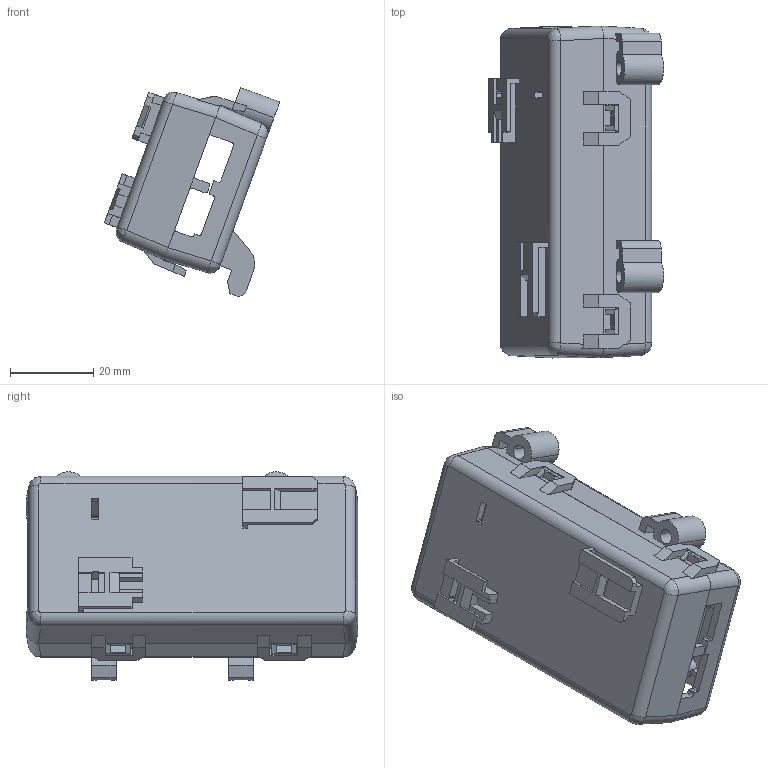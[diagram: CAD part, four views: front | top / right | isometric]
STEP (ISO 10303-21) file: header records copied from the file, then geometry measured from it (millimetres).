
FILE_DESCRIPTION(('CATIA V5 STEP Exchange'),'2;1');
FILE_NAME('C:\Users\zhangchangjiang\Desktop\ECU.stp','2020-06-23T08:51:02+00:00',('none'),('none'),'CATIA Version 5 Release 20 GA (IN-10)','CATIA V5 STEP AP214','none');
FILE_SCHEMA(('AUTOMOTIVE_DESIGN { 1 0 10303 214 1 1 1 1 }'));
Length unit declared in the file: millimetre
Products named in the file (1): ECU
Bounding box: 42.21 x 79.89 x 50.23 mm (x, y, z)
Volume: 24960.6 mm3; surface area: 28361.2 mm2
Topology: 2 solids, 2 shells, 730 faces, 2108 edges, 1378 vertices
Faces by surface type: plane 457, cylinder 232, bspline 35, cone 6
Entity records: 26155 total; most frequent: CARTESIAN_POINT 8924, ORIENTED_EDGE 4216, DIRECTION 2555, EDGE_CURVE 2108, VERTEX_POINT 1378, VECTOR 1356, LINE 1356, EDGE_LOOP 754
